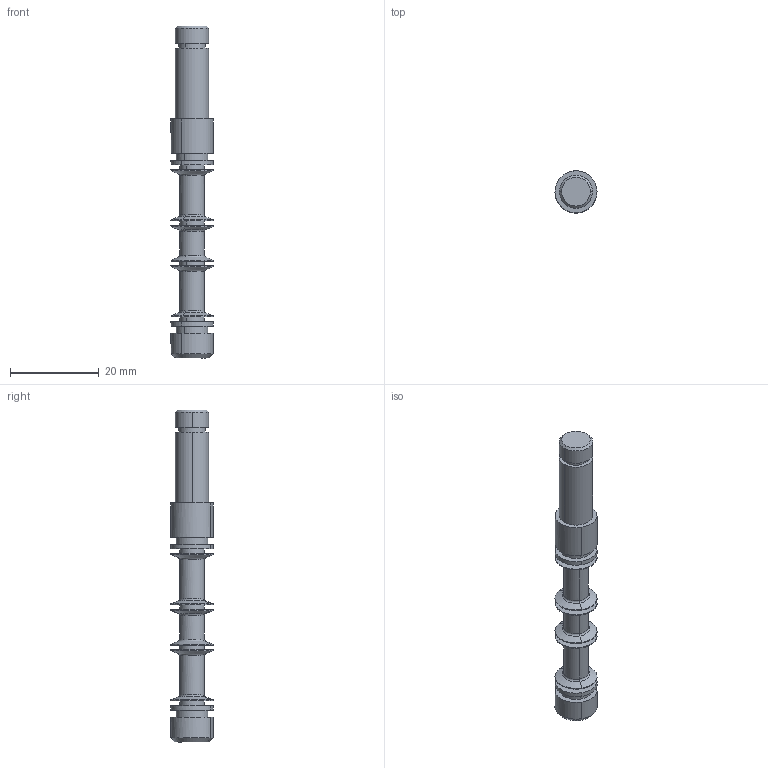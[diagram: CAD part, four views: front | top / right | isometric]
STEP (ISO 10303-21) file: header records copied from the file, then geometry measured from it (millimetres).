
FILE_DESCRIPTION(('CATIA V5 STEP Exchange'),'2;1');
FILE_NAME('F:\1.项目开发\22.集成式智能空簧\集成空簧方案设计\方案B-140直径\JCKH-02阀芯-20211123.stp','2021-11-23T05:31:24+00:00',('none'),('none'),'CATIA Version 5 Release 20 GA (IN-10)','CATIA V5 STEP AP214','none');
FILE_SCHEMA(('AUTOMOTIVE_DESIGN { 1 0 10303 214 1 1 1 1 }'));
Length unit declared in the file: millimetre
Products named in the file (1): JCKH-02-B
Bounding box: 9.5 x 9.5 x 75 mm (x, y, z)
Volume: 3141.7 mm3; surface area: 2516.1 mm2
Topology: 1 solids, 1 shells, 102 faces, 212 edges, 127 vertices
Faces by surface type: cylinder 44, cone 23, torus 18, plane 17
Entity records: 3317 total; most frequent: CARTESIAN_POINT 620, ORIENTED_EDGE 424, DIRECTION 328, EDGE_CURVE 212, AXIS2_PLACEMENT_3D 192, VERTEX_POINT 127, CIRCLE 121, EDGE_LOOP 117
